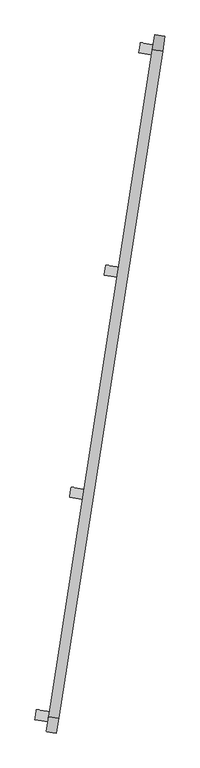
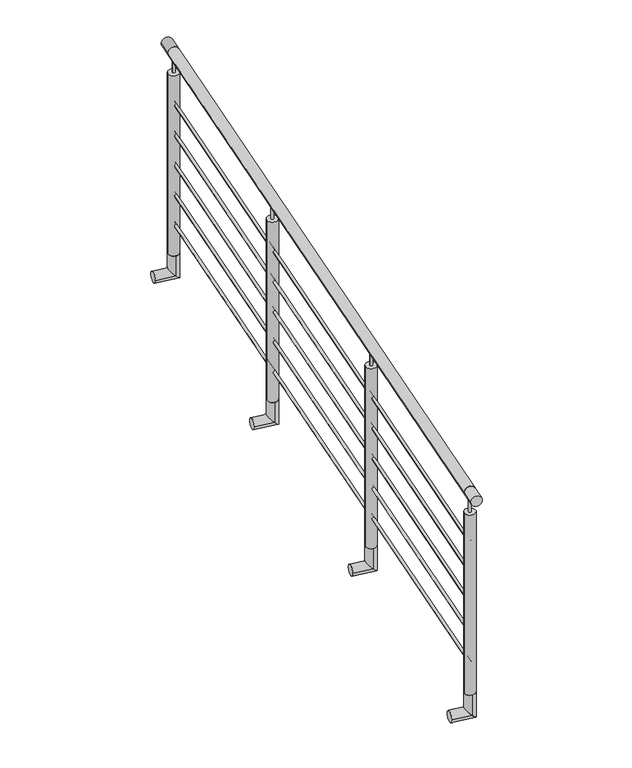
"""IFC4 building model written with IfcOpenShell, lengths in millimetres: railing geometry, Barandal acero inox - sobre ventana."""

from ifc_helpers import new_model, si_unit, point, frame, frame_2d, origin, origin_2d, place, context, project, spatial, circle_curve, ellipse_curve, trimmed, segment, composite_curve, outline, extrude, source, transform, mapped, element, save
from ifc_brep_helpers import plane_surface, cylinder_surface, advanced_brep


def railing_35c42666(model_context):
    return source(origin(), model_context, "Body", "SolidModel", [
        extrude(outline(composite_curve([segment(trimmed(circle_curve(origin_2d(), 25.4), [point((25.4, 0.0))], [point((-25.4, 0.0))], False, "CARTESIAN"), True, "CONTINUOUS"), segment(trimmed(circle_curve(origin_2d(), 25.4), [point((-25.4, 0.0))], [point((25.4, 0.0))], False, "CARTESIAN"), True, "CONTINUOUS")], self_intersect=False)), frame((-24555.830367, -78316.1255501, 10600.0), z_axis=(0.15400987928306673, 0.9880693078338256, 0.0), x_axis=(0.9880693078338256, -0.15400987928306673, 0.0)), (0.0, 0.0, 1.0), 3355.0000009),
        extrude(outline(composite_curve([segment(trimmed(circle_curve(origin_2d(), 6.35), [point((6.35, 0.0))], [point((-6.35, 0.0))], False, "CARTESIAN"), True, "CONTINUOUS"), segment(trimmed(circle_curve(origin_2d(), 6.35), [point((-6.35, 0.0))], [point((6.35, 0.0))], False, "CARTESIAN"), True, "CONTINUOUS")], self_intersect=False)), frame((-24555.830367, -78316.1255501, 10350.0), z_axis=(0.15400987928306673, 0.9880693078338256, 0.0), x_axis=(0.9880693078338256, -0.15400987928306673, 0.0)), (0.0, 0.0, 1.0), 3355.0000009),
        extrude(outline(composite_curve([segment(trimmed(circle_curve(origin_2d(), 6.35), [point((6.35, 0.0))], [point((-6.35, 0.0))], False, "CARTESIAN"), True, "CONTINUOUS"), segment(trimmed(circle_curve(origin_2d(), 6.35), [point((-6.35, 0.0))], [point((6.35, 0.0))], False, "CARTESIAN"), True, "CONTINUOUS")], self_intersect=False)), frame((-24555.830367, -78316.1255501, 10200.0), z_axis=(0.15400987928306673, 0.9880693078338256, 0.0), x_axis=(0.9880693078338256, -0.15400987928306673, 0.0)), (0.0, 0.0, 1.0), 3355.0000009),
        extrude(outline(composite_curve([segment(trimmed(circle_curve(origin_2d(), 6.35), [point((6.35, 0.0))], [point((-6.35, 0.0))], False, "CARTESIAN"), True, "CONTINUOUS"), segment(trimmed(circle_curve(origin_2d(), 6.35), [point((-6.35, 0.0))], [point((6.35, 0.0))], False, "CARTESIAN"), True, "CONTINUOUS")], self_intersect=False)), frame((-24555.830367, -78316.1255501, 10050.0), z_axis=(0.15400987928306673, 0.9880693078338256, 0.0), x_axis=(0.9880693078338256, -0.15400987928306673, 0.0)), (0.0, 0.0, 1.0), 3355.0000009),
        extrude(outline(composite_curve([segment(trimmed(circle_curve(origin_2d(), 6.35), [point((6.35, 0.0))], [point((-6.35, 0.0))], False, "CARTESIAN"), True, "CONTINUOUS"), segment(trimmed(circle_curve(origin_2d(), 6.35), [point((-6.35, 0.0))], [point((6.35, 0.0))], False, "CARTESIAN"), True, "CONTINUOUS")], self_intersect=False)), frame((-24555.830367, -78316.1255501, 9900.0), z_axis=(0.15400987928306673, 0.9880693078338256, 0.0), x_axis=(0.9880693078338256, -0.15400987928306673, 0.0)), (0.0, 0.0, 1.0), 3355.0000009),
        extrude(outline(composite_curve([segment(trimmed(circle_curve(origin_2d(), 6.35), [point((6.35, 0.0))], [point((-6.35, 0.0))], False, "CARTESIAN"), True, "CONTINUOUS"), segment(trimmed(circle_curve(origin_2d(), 6.35), [point((-6.35, 0.0))], [point((6.35, 0.0))], False, "CARTESIAN"), True, "CONTINUOUS")], self_intersect=False)), frame((-24555.830367, -78316.1255501, 9750.0), z_axis=(0.15400987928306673, 0.9880693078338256, 0.0), x_axis=(0.9880693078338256, -0.15400987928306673, 0.0)), (0.0, 0.0, 1.0), 3355.0000009),
        advanced_brep(
        [(-24215.2734545, -76131.2408247, 9600.0), (-24207.4497526, -76081.0469039, 9600.0), (-24207.4497526, -76081.0469039, 9500.0), (-24215.2734545, -76131.2408247, 9500.0), (-24304.1996922, -76117.3799356, 9500.0), (-24296.3759903, -76067.1860147, 9500.0)],
        [
            (0, 1, circle_curve(frame((-24211.3616036, -76106.1438643, 9600.0), z_axis=(0.0, 0.0, 1.0), x_axis=(0.15400987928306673, 0.9880693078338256, 0.0)), 25.4)),
            (1, 0, circle_curve(frame((-24211.3616036, -76106.1438643, 9600.0), z_axis=(0.0, 0.0, 1.0), x_axis=(0.15400987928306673, 0.9880693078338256, 0.0)), 25.4)),
            (1, 2),
            (2, 3, ellipse_curve(frame((-24211.3616036, -76106.1438643, 9500.0), z_axis=(0.6986705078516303, -0.10890143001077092, 0.7071067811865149), x_axis=(-0.6986705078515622, 0.10890143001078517, 0.7071067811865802)), 35.9210245, 25.4)),
            (3, 0),
            (3, 2, ellipse_curve(frame((-24211.3616036, -76106.1438643, 9500.0), z_axis=(0.6986705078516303, -0.10890143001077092, 0.7071067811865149), x_axis=(-0.6986705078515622, 0.10890143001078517, 0.7071067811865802)), 35.9210245, 25.4)),
            (4, 5, circle_curve(frame((-24300.2878413, -76092.2829752, 9500.0), z_axis=(-0.9880693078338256, 0.15400987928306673, 0.0), x_axis=(0.15400987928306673, 0.9880693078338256, 0.0)), 25.4)),
            (5, 4, circle_curve(frame((-24300.2878413, -76092.2829752, 9500.0), z_axis=(-0.9880693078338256, 0.15400987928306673, 0.0), x_axis=(0.15400987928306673, 0.9880693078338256, 0.0)), 25.4)),
            (2, 5),
            (4, 3),
        ],
        [
            plane_surface(frame((-24211.3616036, -76106.1438643, 9600.0), z_axis=(0.0, 0.0, 1.0), x_axis=(0.15400987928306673, 0.9880693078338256, 0.0))),
            cylinder_surface(frame((-24211.3616036, -76106.1438643, 9600.0), z_axis=(0.0, 0.0, 1.0), x_axis=(0.15400987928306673, 0.9880693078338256, 0.0)), 25.4),
            plane_surface(frame((-24300.2878413, -76092.2829752, 9500.0), z_axis=(-0.9880693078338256, 0.15400987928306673, 0.0), x_axis=(0.15400987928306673, 0.9880693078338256, 0.0))),
            cylinder_surface(frame((-24211.3616036, -76106.1438643, 9500.0), z_axis=(0.9880693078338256, -0.15400987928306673, 0.0), x_axis=(0.15400987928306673, 0.9880693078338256, 0.0)), 25.4),
        ],
        [
            (0, [[1, 2]]),
            (1, [[3, 4, 5, -2]]),
            (1, [[-5, 6, -3, -1]]),
            (2, [[7, 8]]),
            (3, [[9, -7, 10, -4]]),
            (3, [[-10, -8, -9, -6]]),
        ],
    ),
        extrude(outline(composite_curve([segment(trimmed(circle_curve(frame_2d((-24211.3616036, -76106.1438643)), 6.35), [point((-24217.6358437, -76105.1659016))], [point((-24205.0873635, -76107.121827))], False, "CARTESIAN"), True, "CONTINUOUS"), segment(trimmed(circle_curve(frame_2d((-24211.3616036, -76106.1438643)), 6.35), [point((-24205.0873635, -76107.121827))], [point((-24217.6358437, -76105.1659016))], False, "CARTESIAN"), True, "CONTINUOUS")], self_intersect=False)), frame((0.0, 0.0, 10499.6), z_axis=(0.0, 0.0, 1.0), x_axis=(1.0, 0.0, 0.0)), (0.0, 0.0, 1.0), 75.0),
        extrude(outline(composite_curve([segment(trimmed(circle_curve(frame_2d((-24211.3616036, -76106.1438643)), 25.4), [point((-24236.458564, -76102.2320134))], [point((-24186.2646431, -76110.0557152))], False, "CARTESIAN"), True, "CONTINUOUS"), segment(trimmed(circle_curve(frame_2d((-24211.3616036, -76106.1438643)), 25.4), [point((-24186.2646431, -76110.0557152))], [point((-24236.458564, -76102.2320134))], False, "CARTESIAN"), True, "CONTINUOUS")], self_intersect=False)), frame((0.0, 0.0, 9600.0), z_axis=(0.0, 0.0, 1.0), x_axis=(1.0, 0.0, 0.0)), (0.0, 0.0, 1.0), 899.6),
        advanced_brep(
        [(-24387.5078362, -77236.2316676, 9600.0), (-24379.6841343, -77186.0377468, 9600.0), (-24379.6841343, -77186.0377468, 9500.0), (-24387.5078362, -77236.2316676, 9500.0), (-24476.4340739, -77222.3707785, 9500.0), (-24468.610372, -77172.1768577, 9500.0)],
        [
            (0, 1, circle_curve(frame((-24383.5959853, -77211.1347072, 9600.0), z_axis=(0.0, 0.0, 1.0), x_axis=(0.15400987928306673, 0.9880693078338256, 0.0)), 25.4)),
            (1, 0, circle_curve(frame((-24383.5959853, -77211.1347072, 9600.0), z_axis=(0.0, 0.0, 1.0), x_axis=(0.15400987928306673, 0.9880693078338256, 0.0)), 25.4)),
            (1, 2),
            (2, 3, ellipse_curve(frame((-24383.5959853, -77211.1347072, 9500.0), z_axis=(0.6986705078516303, -0.10890143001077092, 0.7071067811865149), x_axis=(-0.6986705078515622, 0.10890143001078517, 0.7071067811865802)), 35.9210245, 25.4)),
            (3, 0),
            (3, 2, ellipse_curve(frame((-24383.5959853, -77211.1347072, 9500.0), z_axis=(0.6986705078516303, -0.10890143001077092, 0.7071067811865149), x_axis=(-0.6986705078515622, 0.10890143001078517, 0.7071067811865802)), 35.9210245, 25.4)),
            (4, 5, circle_curve(frame((-24472.522223, -77197.2738181, 9500.0), z_axis=(-0.9880693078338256, 0.15400987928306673, 0.0), x_axis=(0.15400987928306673, 0.9880693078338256, 0.0)), 25.4)),
            (5, 4, circle_curve(frame((-24472.522223, -77197.2738181, 9500.0), z_axis=(-0.9880693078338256, 0.15400987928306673, 0.0), x_axis=(0.15400987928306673, 0.9880693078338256, 0.0)), 25.4)),
            (2, 5),
            (4, 3),
        ],
        [
            plane_surface(frame((-24383.5959853, -77211.1347072, 9600.0), z_axis=(0.0, 0.0, 1.0), x_axis=(0.15400987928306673, 0.9880693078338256, 0.0))),
            cylinder_surface(frame((-24383.5959853, -77211.1347072, 9600.0), z_axis=(0.0, 0.0, 1.0), x_axis=(0.15400987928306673, 0.9880693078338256, 0.0)), 25.4),
            plane_surface(frame((-24472.522223, -77197.2738181, 9500.0), z_axis=(-0.9880693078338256, 0.15400987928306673, 0.0), x_axis=(0.15400987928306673, 0.9880693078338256, 0.0))),
            cylinder_surface(frame((-24383.5959853, -77211.1347072, 9500.0), z_axis=(0.9880693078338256, -0.15400987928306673, 0.0), x_axis=(0.15400987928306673, 0.9880693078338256, 0.0)), 25.4),
        ],
        [
            (0, [[1, 2]]),
            (1, [[3, 4, 5, -2]]),
            (1, [[-5, 6, -3, -1]]),
            (2, [[7, 8]]),
            (3, [[9, -7, 10, -4]]),
            (3, [[-10, -8, -9, -6]]),
        ],
    ),
        extrude(outline(composite_curve([segment(trimmed(circle_curve(frame_2d((-24383.5959853, -77211.1347072)), 6.35), [point((-24389.8702254, -77210.1567445))], [point((-24377.3217452, -77212.1126699))], False, "CARTESIAN"), True, "CONTINUOUS"), segment(trimmed(circle_curve(frame_2d((-24383.5959853, -77211.1347072)), 6.35), [point((-24377.3217452, -77212.1126699))], [point((-24389.8702254, -77210.1567445))], False, "CARTESIAN"), True, "CONTINUOUS")], self_intersect=False)), frame((0.0, 0.0, 10499.6), z_axis=(0.0, 0.0, 1.0), x_axis=(1.0, 0.0, 0.0)), (0.0, 0.0, 1.0), 75.0),
        extrude(outline(composite_curve([segment(trimmed(circle_curve(frame_2d((-24383.5959853, -77211.1347072)), 25.4), [point((-24408.6929457, -77207.2228563))], [point((-24358.4990249, -77215.0465581))], False, "CARTESIAN"), True, "CONTINUOUS"), segment(trimmed(circle_curve(frame_2d((-24383.5959853, -77211.1347072)), 25.4), [point((-24358.4990249, -77215.0465581))], [point((-24408.6929457, -77207.2228563))], False, "CARTESIAN"), True, "CONTINUOUS")], self_intersect=False)), frame((0.0, 0.0, 9600.0), z_axis=(0.0, 0.0, 1.0), x_axis=(1.0, 0.0, 0.0)), (0.0, 0.0, 1.0), 899.6),
        advanced_brep(
        [(-24043.0390728, -75026.2499818, 9600.0), (-24035.2153709, -74976.056061, 9600.0), (-24035.2153709, -74976.056061, 9500.0), (-24043.0390728, -75026.2499818, 9500.0), (-24131.9653105, -75012.3890927, 9500.0), (-24124.1416086, -74962.1951718, 9500.0)],
        [
            (0, 1, circle_curve(frame((-24039.1272218, -75001.1530214, 9600.0), z_axis=(0.0, 0.0, 1.0), x_axis=(0.15400987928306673, 0.9880693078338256, 0.0)), 25.4)),
            (1, 0, circle_curve(frame((-24039.1272218, -75001.1530214, 9600.0), z_axis=(0.0, 0.0, 1.0), x_axis=(0.15400987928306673, 0.9880693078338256, 0.0)), 25.4)),
            (1, 2),
            (2, 3, ellipse_curve(frame((-24039.1272218, -75001.1530214, 9500.0), z_axis=(0.6986705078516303, -0.10890143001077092, 0.7071067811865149), x_axis=(-0.6986705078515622, 0.10890143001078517, 0.7071067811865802)), 35.9210245, 25.4)),
            (3, 0),
            (3, 2, ellipse_curve(frame((-24039.1272218, -75001.1530214, 9500.0), z_axis=(0.6986705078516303, -0.10890143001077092, 0.7071067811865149), x_axis=(-0.6986705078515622, 0.10890143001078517, 0.7071067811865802)), 35.9210245, 25.4)),
            (4, 5, circle_curve(frame((-24128.0534596, -74987.2921323, 9500.0), z_axis=(-0.9880693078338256, 0.15400987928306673, 0.0), x_axis=(0.15400987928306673, 0.9880693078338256, 0.0)), 25.4)),
            (5, 4, circle_curve(frame((-24128.0534596, -74987.2921323, 9500.0), z_axis=(-0.9880693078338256, 0.15400987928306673, 0.0), x_axis=(0.15400987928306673, 0.9880693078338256, 0.0)), 25.4)),
            (2, 5),
            (4, 3),
        ],
        [
            plane_surface(frame((-24039.1272218, -75001.1530214, 9600.0), z_axis=(0.0, 0.0, 1.0), x_axis=(0.15400987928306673, 0.9880693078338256, 0.0))),
            cylinder_surface(frame((-24039.1272218, -75001.1530214, 9600.0), z_axis=(0.0, 0.0, 1.0), x_axis=(0.15400987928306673, 0.9880693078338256, 0.0)), 25.4),
            plane_surface(frame((-24128.0534596, -74987.2921323, 9500.0), z_axis=(-0.9880693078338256, 0.15400987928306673, 0.0), x_axis=(0.15400987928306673, 0.9880693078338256, 0.0))),
            cylinder_surface(frame((-24039.1272218, -75001.1530214, 9500.0), z_axis=(0.9880693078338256, -0.15400987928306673, 0.0), x_axis=(0.15400987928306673, 0.9880693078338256, 0.0)), 25.4),
        ],
        [
            (0, [[1, 2]]),
            (1, [[3, 4, 5, -2]]),
            (1, [[-5, 6, -3, -1]]),
            (2, [[7, 8]]),
            (3, [[9, -7, 10, -4]]),
            (3, [[-10, -8, -9, -6]]),
        ],
    ),
        extrude(outline(composite_curve([segment(trimmed(circle_curve(frame_2d((0.0, 25.4)), 25.4), [point((0.0, 50.8000001))], [point((0.0, 0.0))], False, "CARTESIAN"), True, "CONTINUOUS"), segment(trimmed(circle_curve(frame_2d((0.0, 25.4)), 25.4), [point((0.0, 0.0))], [point((0.0, 50.8000001))], False, "CARTESIAN"), True, "CONTINUOUS")], self_intersect=False)), frame((-24014.0302614, -75005.0648723, 10600.0), z_axis=(0.15400987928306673, 0.9880693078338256, 0.0), x_axis=(0.0, 0.0, -1.0)), (0.0, 0.0, 1.0), 75.0),
        extrude(outline(composite_curve([segment(trimmed(circle_curve(frame_2d((-24039.1272218, -75001.1530214)), 6.35), [point((-24045.401462, -75000.1750587))], [point((-24032.8529817, -75002.1309841))], False, "CARTESIAN"), True, "CONTINUOUS"), segment(trimmed(circle_curve(frame_2d((-24039.1272218, -75001.1530214)), 6.35), [point((-24032.8529817, -75002.1309841))], [point((-24045.401462, -75000.1750587))], False, "CARTESIAN"), True, "CONTINUOUS")], self_intersect=False)), frame((0.0, 0.0, 10499.6), z_axis=(0.0, 0.0, 1.0), x_axis=(1.0, 0.0, 0.0)), (0.0, 0.0, 1.0), 75.0),
        extrude(outline(composite_curve([segment(trimmed(circle_curve(frame_2d((-24039.1272218, -75001.1530214)), 25.4), [point((-24064.2241823, -74997.2411705))], [point((-24014.0302614, -75005.0648723))], False, "CARTESIAN"), True, "CONTINUOUS"), segment(trimmed(circle_curve(frame_2d((-24039.1272218, -75001.1530214)), 25.4), [point((-24014.0302614, -75005.0648723))], [point((-24064.2241823, -74997.2411705))], False, "CARTESIAN"), True, "CONTINUOUS")], self_intersect=False)), frame((0.0, 0.0, 9600.0), z_axis=(0.0, 0.0, 1.0), x_axis=(1.0, 0.0, 0.0)), (0.0, 0.0, 1.0), 899.6),
        advanced_brep(
        [(-24559.7422179, -78341.2225105, 9600.0), (-24551.9185161, -78291.0285897, 9600.0), (-24551.9185161, -78291.0285897, 9500.0), (-24559.7422179, -78341.2225105, 9500.0), (-24648.6684556, -78327.3616214, 9500.0), (-24640.8447538, -78277.1677006, 9500.0)],
        [
            (0, 1, circle_curve(frame((-24555.830367, -78316.1255501, 9600.0), z_axis=(0.0, 0.0, 1.0), x_axis=(0.15400987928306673, 0.9880693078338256, 0.0)), 25.4)),
            (1, 0, circle_curve(frame((-24555.830367, -78316.1255501, 9600.0), z_axis=(0.0, 0.0, 1.0), x_axis=(0.15400987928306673, 0.9880693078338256, 0.0)), 25.4)),
            (1, 2),
            (2, 3, ellipse_curve(frame((-24555.830367, -78316.1255501, 9500.0), z_axis=(0.6986705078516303, -0.10890143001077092, 0.7071067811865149), x_axis=(-0.6986705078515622, 0.10890143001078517, 0.7071067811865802)), 35.9210245, 25.4)),
            (3, 0),
            (3, 2, ellipse_curve(frame((-24555.830367, -78316.1255501, 9500.0), z_axis=(0.6986705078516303, -0.10890143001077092, 0.7071067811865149), x_axis=(-0.6986705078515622, 0.10890143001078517, 0.7071067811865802)), 35.9210245, 25.4)),
            (4, 5, circle_curve(frame((-24644.7566047, -78302.264661, 9500.0), z_axis=(-0.9880693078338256, 0.15400987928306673, 0.0), x_axis=(0.15400987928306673, 0.9880693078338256, 0.0)), 25.4)),
            (5, 4, circle_curve(frame((-24644.7566047, -78302.264661, 9500.0), z_axis=(-0.9880693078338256, 0.15400987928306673, 0.0), x_axis=(0.15400987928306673, 0.9880693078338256, 0.0)), 25.4)),
            (2, 5),
            (4, 3),
        ],
        [
            plane_surface(frame((-24555.830367, -78316.1255501, 9600.0), z_axis=(0.0, 0.0, 1.0), x_axis=(0.15400987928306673, 0.9880693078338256, 0.0))),
            cylinder_surface(frame((-24555.830367, -78316.1255501, 9600.0), z_axis=(0.0, 0.0, 1.0), x_axis=(0.15400987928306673, 0.9880693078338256, 0.0)), 25.4),
            plane_surface(frame((-24644.7566047, -78302.264661, 9500.0), z_axis=(-0.9880693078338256, 0.15400987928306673, 0.0), x_axis=(0.15400987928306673, 0.9880693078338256, 0.0))),
            cylinder_surface(frame((-24555.830367, -78316.1255501, 9500.0), z_axis=(0.9880693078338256, -0.15400987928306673, 0.0), x_axis=(0.15400987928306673, 0.9880693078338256, 0.0)), 25.4),
        ],
        [
            (0, [[1, 2]]),
            (1, [[3, 4, 5, -2]]),
            (1, [[-5, 6, -3, -1]]),
            (2, [[7, 8]]),
            (3, [[9, -7, 10, -4]]),
            (3, [[-10, -8, -9, -6]]),
        ],
    ),
        extrude(outline(composite_curve([segment(trimmed(circle_curve(frame_2d((0.0, 25.4)), 25.4), [point((0.0, 50.8000001))], [point((0.0, 0.0))], False, "CARTESIAN"), True, "CONTINUOUS"), segment(trimmed(circle_curve(frame_2d((0.0, 25.4)), 25.4), [point((0.0, 0.0))], [point((0.0, 50.8000001))], False, "CARTESIAN"), True, "CONTINUOUS")], self_intersect=False)), frame((-24542.2841475, -78394.1425991, 10600.0), z_axis=(0.15400987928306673, 0.9880693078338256, 0.0), x_axis=(0.0, 0.0, -1.0)), (0.0, 0.0, 1.0), 75.0),
        extrude(outline(composite_curve([segment(trimmed(circle_curve(frame_2d((-24555.830367, -78316.1255501)), 6.35), [point((-24562.1046071, -78315.1475874))], [point((-24549.5561269, -78317.1035128))], False, "CARTESIAN"), True, "CONTINUOUS"), segment(trimmed(circle_curve(frame_2d((-24555.830367, -78316.1255501)), 6.35), [point((-24549.5561269, -78317.1035128))], [point((-24562.1046071, -78315.1475874))], False, "CARTESIAN"), True, "CONTINUOUS")], self_intersect=False)), frame((0.0, 0.0, 10499.6), z_axis=(0.0, 0.0, 1.0), x_axis=(1.0, 0.0, 0.0)), (0.0, 0.0, 1.0), 75.0),
        extrude(outline(composite_curve([segment(trimmed(circle_curve(frame_2d((-24555.830367, -78316.1255501)), 25.4), [point((-24580.9273274, -78312.2136992))], [point((-24530.7334066, -78320.037401))], False, "CARTESIAN"), True, "CONTINUOUS"), segment(trimmed(circle_curve(frame_2d((-24555.830367, -78316.1255501)), 25.4), [point((-24530.7334066, -78320.037401))], [point((-24580.9273274, -78312.2136992))], False, "CARTESIAN"), True, "CONTINUOUS")], self_intersect=False)), frame((0.0, 0.0, 9600.0), z_axis=(0.0, 0.0, 1.0), x_axis=(1.0, 0.0, 0.0)), (0.0, 0.0, 1.0), 899.6),
    ])


if __name__ == "__main__":
    model = new_model("IFC4")
    model_context = context("Model", 3, world=origin())
    ifc_project = project(units=[si_unit("LENGTHUNIT", "METRE", prefix="MILLI")], contexts=[model_context])
    site = spatial("IfcSite", under=ifc_project)
    building = spatial("IfcBuilding", under=site)
    placement = place(None, origin())
    railing_shape = railing_35c42666(model_context)
    element("IfcRailing", 1, ObjectType="Barandal acero inox - sobre ventana", at=placement, inside=building, context=model_context, shape_type="MappedRepresentation", body=[
        mapped(railing_shape, transform((0.0, 0.0, 0.0), x_axis=(1.0, 0.0, 0.0), y_axis=(0.0, 1.0, 0.0), z_axis=(0.0, 0.0, 1.0))),
    ])
    save(model, "model.ifc")
